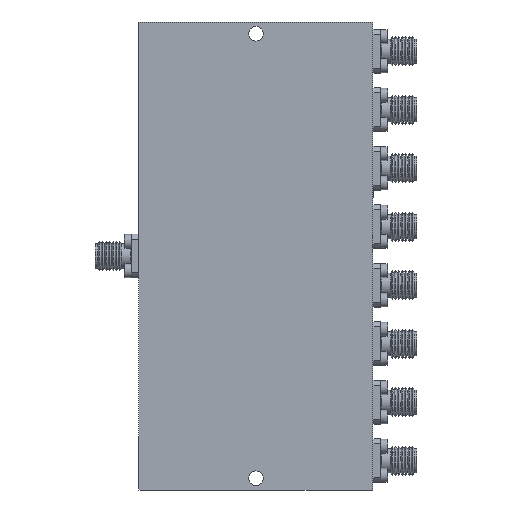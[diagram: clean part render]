
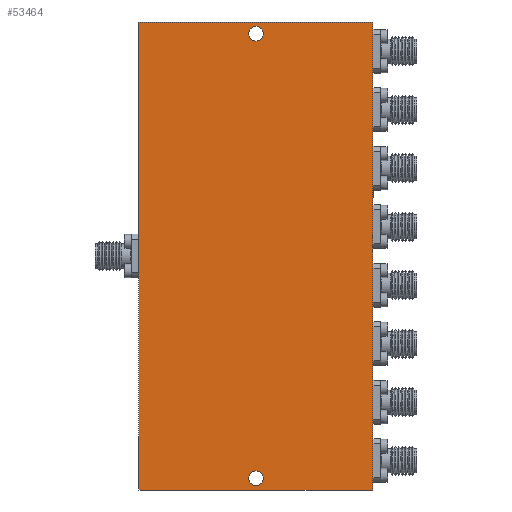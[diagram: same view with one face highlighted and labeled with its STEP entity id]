
A CAD part, front view. The second image highlights one B-rep face of the part: STEP entity #53464.
In plain terms, the highlighted planar face has unit normal (0, -1, 0).
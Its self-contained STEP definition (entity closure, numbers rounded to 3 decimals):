
#4325=LINE('',#77280,#7777);
#4328=LINE('',#77286,#7780);
#4330=LINE('',#77290,#7782);
#4331=LINE('',#77292,#7783);
#7777=VECTOR('',#65774,1000.);
#7780=VECTOR('',#65779,1000.);
#7782=VECTOR('',#65783,1000.);
#7783=VECTOR('',#65786,1000.);
#9178=PLANE('',#56515);
#17817=ORIENTED_EDGE('',*,*,#23021,.T.);
#17818=ORIENTED_EDGE('',*,*,#23024,.T.);
#17819=ORIENTED_EDGE('',*,*,#23026,.T.);
#17820=ORIENTED_EDGE('',*,*,#23027,.T.);
#17821=ORIENTED_EDGE('',*,*,#23019,.F.);
#17822=ORIENTED_EDGE('',*,*,#23018,.F.);
#23018=EDGE_CURVE('',#26534,#26534,#27626,.T.);
#23019=EDGE_CURVE('',#26535,#26535,#27627,.T.);
#23021=EDGE_CURVE('',#26537,#26536,#4325,.T.);
#23024=EDGE_CURVE('',#26536,#26538,#4328,.T.);
#23026=EDGE_CURVE('',#26538,#26539,#4330,.T.);
#23027=EDGE_CURVE('',#26539,#26537,#4331,.T.);
#26534=VERTEX_POINT('',#77273);
#26535=VERTEX_POINT('',#77276);
#26536=VERTEX_POINT('',#77279);
#26537=VERTEX_POINT('',#77281);
#26538=VERTEX_POINT('',#77285);
#26539=VERTEX_POINT('',#77289);
#27626=CIRCLE('',#56508,1.6);
#27627=CIRCLE('',#56510,1.6);
#30512=EDGE_LOOP('',(#17817,#17818,#17819,#17820));
#30513=EDGE_LOOP('',(#17821));
#30514=EDGE_LOOP('',(#17822));
#33908=FACE_BOUND('',#30512,.T.);
#33909=FACE_BOUND('',#30513,.T.);
#33910=FACE_BOUND('',#30514,.T.);
#53464=ADVANCED_FACE('',(#33908,#33909,#33910),#9178,.T.);
#56508=AXIS2_PLACEMENT_3D('',#77272,#65765,#65766);
#56510=AXIS2_PLACEMENT_3D('',#77275,#65769,#65770);
#56515=AXIS2_PLACEMENT_3D('',#77293,#65787,#65788);
#65765=DIRECTION('',(0.,-1.,0.));
#65766=DIRECTION('',(0.,0.,-1.));
#65769=DIRECTION('',(0.,-1.,0.));
#65770=DIRECTION('',(0.,0.,-1.));
#65774=DIRECTION('',(0.,0.,1.));
#65779=DIRECTION('',(-1.,0.,0.));
#65783=DIRECTION('',(0.,0.,-1.));
#65786=DIRECTION('',(1.,0.,0.));
#65787=DIRECTION('',(0.,-1.,0.));
#65788=DIRECTION('',(0.,0.,-1.));
#77272=CARTESIAN_POINT('',(0.,-6.,48.26));
#77273=CARTESIAN_POINT('',(0.,-6.,46.66));
#77275=CARTESIAN_POINT('',(0.,-6.,-48.26));
#77276=CARTESIAN_POINT('',(0.,-6.,-49.86));
#77279=CARTESIAN_POINT('',(25.4,-6.,50.8));
#77280=CARTESIAN_POINT('',(25.4,-6.,-50.8));
#77281=CARTESIAN_POINT('',(25.4,-6.,-50.8));
#77285=CARTESIAN_POINT('',(-25.4,-6.,50.8));
#77286=CARTESIAN_POINT('',(25.4,-6.,50.8));
#77289=CARTESIAN_POINT('',(-25.4,-6.,-50.8));
#77290=CARTESIAN_POINT('',(-25.4,-6.,50.8));
#77292=CARTESIAN_POINT('',(-25.4,-6.,-50.8));
#77293=CARTESIAN_POINT('',(0.,-6.,0.));
